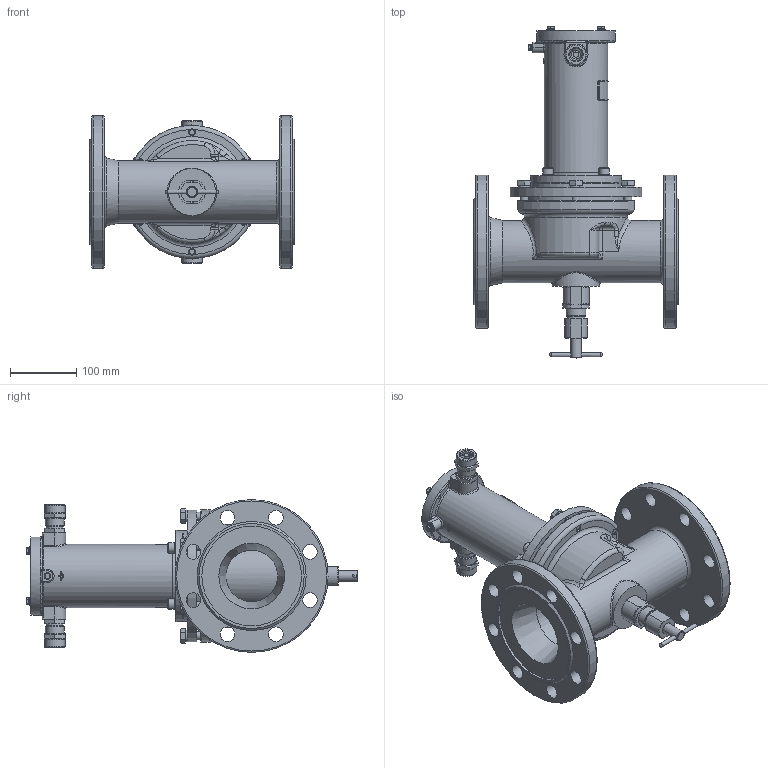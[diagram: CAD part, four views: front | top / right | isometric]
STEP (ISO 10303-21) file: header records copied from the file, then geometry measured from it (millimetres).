
FILE_DESCRIPTION(('STEP AP203'), '1');
FILE_NAME('ÑÅÍÑ DN100PN25-Â-ÍÎ.stp', '2018-09-19T08:51:35', ('Îðëîâ Å.Â.'), ('ÎÎÎ ÍÏÏ Ñåíñîð'), 'ASCON STEP Converter 1.3', 'Kompas 3D', '');
FILE_SCHEMA(('CONFIG_CONTROL_DESIGN','SUPPORT_RESOURCE_SCHEMA'));
Length unit declared in the file: millimetre
Products named in the file (1): 79
Bounding box: 308 x 499.7 x 230 mm (x, y, z)
Volume: 3836732.1 mm3; surface area: 782401.5 mm2
Topology: 3 solids, 23 shells, 2139 faces, 5657 edges, 3651 vertices
Faces by surface type: cylinder 1043, plane 807, cone 159, bspline 56, torus 50, extrusion 16, sphere 8
Full cylindrical faces by diameter (mm): 3.5 x2, 4.134 x1, 4.917 x7, 5 x1, 6 x9, 6.5 x4, 8 x8, 8.2 x1, 8.376 x4, 10 x5, 10.106 x6, 11 x5, 12 x10, 13 x8, 16 x6, 17 x2, 18 x1, 18.632 x2, 20 x3, 22 x18, 22.376 x2, 23 x1, 23.5 x2, 24 x2, 24.5 x2, 26 x4, 26.376 x2, 27.8 x1, 28 x3, 28.5 x2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
Entity records: 84673 total; most frequent: CARTESIAN_POINT 30727, DIRECTION 11620, ORIENTED_EDGE 11238, EDGE_CURVE 5619, AXIS2_PLACEMENT_3D 4480, VERTEX_POINT 3651, VECTOR 2660, LINE 2644
